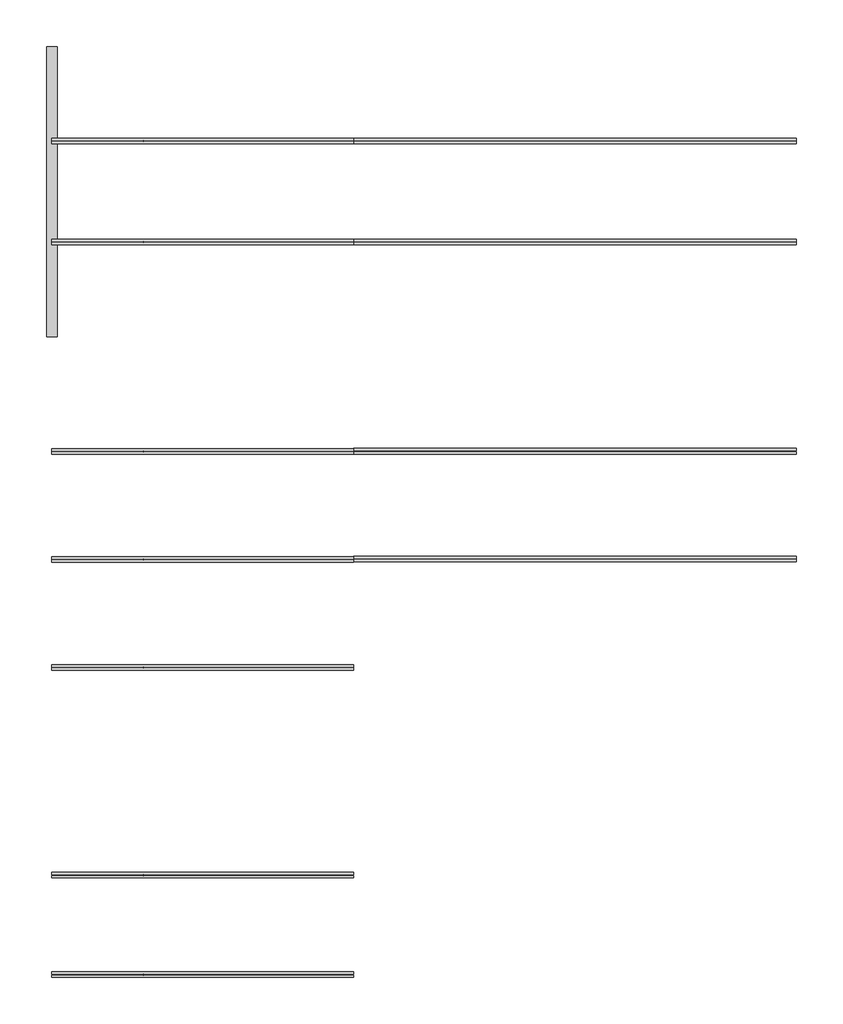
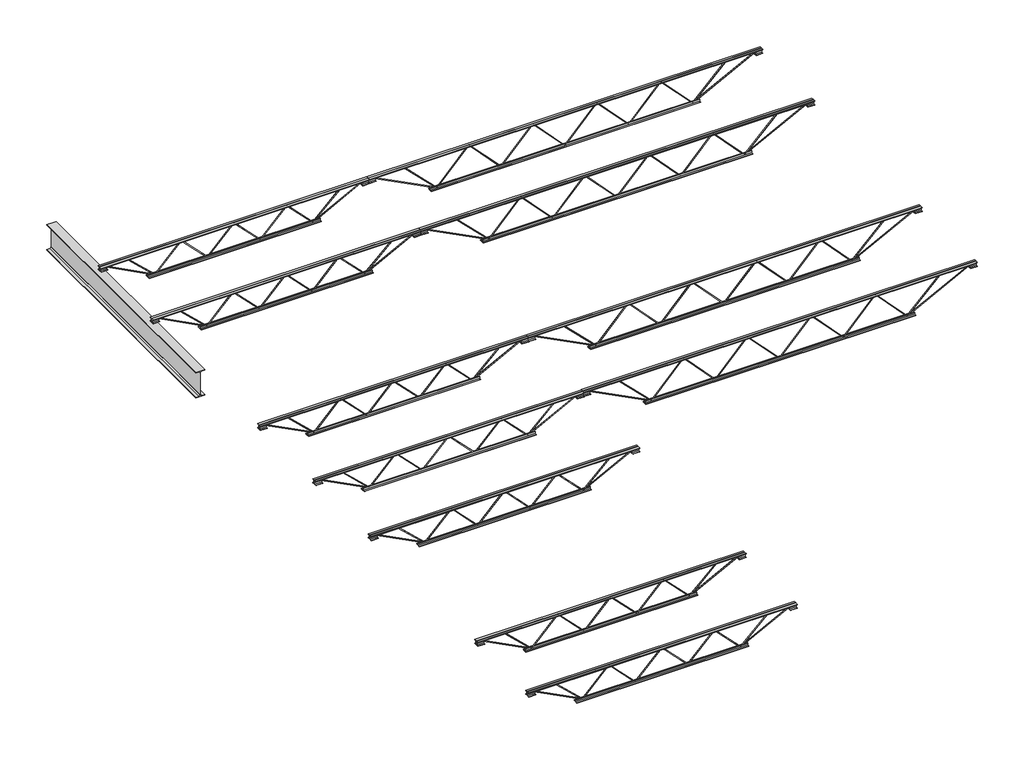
# One storey: 12 beams.
"""IFC4 building model written with IfcOpenShell, lengths in millimetres."""

import ifcopenshell
import ifcopenshell.guid

model = None  # the IFC model being written
_history = None  # IfcOwnerHistory: only IFC2X3 demands one
_inside = {}  # id of a spatial element -> (the spatial element, [elements in it])
_under = {}  # id of a project, library or spatial element -> (it, [spatial elements below it])
_declared = {}  # id of a project -> (the project, [libraries it declares])
_typed = {}  # id of a type object -> (the type object, [elements of that type])
_made_of = {}  # id of a material, layer set ... -> (it, [elements and type objects made of it])


def new_model(schema):
    """Start an empty IFC model of exactly this schema.

    Asked for "IFC4X3", IfcOpenShell would pick the latest addendum, in which some entities
    have other attributes; the version numbers below select the first issue.
    IFC2X3 requires an IfcOwnerHistory on every rooted entity: one is made here for all.
    """
    global model, _history
    if schema == "IFC4X3":
        model = ifcopenshell.file(schema_version=(4, 3, 0, 0))
    else:
        model = ifcopenshell.file(schema=schema)
    _inside.clear()
    _under.clear()
    _declared.clear()
    _typed.clear()
    _made_of.clear()
    _history = None
    if model.schema == "IFC2X3":
        org = make("IfcOrganization", Name="unknown")
        user = make(
            "IfcPersonAndOrganization",
            ThePerson=make("IfcPerson", FamilyName="unknown"),
            TheOrganization=org,
        )
        app = make(
            "IfcApplication",
            ApplicationDeveloper=org,
            Version="unknown",
            ApplicationFullName="unknown",
            ApplicationIdentifier="unknown",
        )
        _history = make(
            "IfcOwnerHistory",
            OwningUser=user,
            OwningApplication=app,
            ChangeAction="ADDED",
            CreationDate=0,
        )
    return model


def make(cls, **values):
    """One entity of the class cls with the attributes given. An attribute that is None is left unset."""
    return model.create_entity(
        cls, **{name: value for name, value in values.items() if value is not None}
    )


def rooted(cls, **values):
    """An entity with a GlobalId (a new one), such as an element, a storey or a relation."""
    return make(cls, GlobalId=ifcopenshell.guid.new(), OwnerHistory=_history, **values)


def si_unit(unit_type, name, prefix=None):
    """IfcSIUnit, for example si_unit("LENGTHUNIT", "METRE", prefix="MILLI")."""
    return make("IfcSIUnit", UnitType=unit_type, Prefix=prefix, Name=name)


def assignment(units):
    """IfcUnitAssignment: the units of a project."""
    return None if units is None else make("IfcUnitAssignment", Units=units)


def point(xyz):
    """IfcCartesianPoint."""
    return None if xyz is None else make("IfcCartesianPoint", Coordinates=xyz)


def direction(xyz):
    """IfcDirection."""
    return None if xyz is None else make("IfcDirection", DirectionRatios=xyz)


def frame(location, z_axis=None, x_axis=None):
    """IfcAxis2Placement3D, a coordinate frame: its origin and axes. An axis left out is left unset."""
    return make(
        "IfcAxis2Placement3D",
        Location=point(location),
        Axis=direction(z_axis),
        RefDirection=direction(x_axis),
    )


def frame_2d(location, x_axis=None):
    """IfcAxis2Placement2D, a coordinate frame in the plane: its origin and x axis."""
    return make(
        "IfcAxis2Placement2D", Location=point(location), RefDirection=direction(x_axis)
    )


def origin():
    """The frame at (0, 0, 0) with its axes left unset."""
    return frame((0.0, 0.0, 0.0))


def place(relative_to, where):
    """IfcLocalPlacement: puts the frame where relative to a parent placement (None: the world)."""
    return make(
        "IfcLocalPlacement", PlacementRelTo=relative_to, RelativePlacement=where
    )


def context(
    kind, dimensions, precision=None, world=None, true_north=None, identifier=None
):
    """IfcGeometricRepresentationContext, for example the 3D "Model" context."""
    return make(
        "IfcGeometricRepresentationContext",
        ContextIdentifier=identifier,
        ContextType=kind,
        CoordinateSpaceDimension=dimensions,
        Precision=precision,
        WorldCoordinateSystem=world,
        TrueNorth=true_north,
    )


def project(units=None, contexts=None):
    """IfcProject with its units and contexts."""
    return rooted(
        "IfcProject",
        Name="project",
        RepresentationContexts=contexts,
        UnitsInContext=assignment(units),
    )


def spatial(cls, under=None, at=None, **own):
    """A site, building, storey or space (cls), placed at a placement, below another one or the project."""
    s = rooted(cls, ObjectPlacement=at, **own)
    if under is not None:
        _under.setdefault(under.id(), (under, []))[1].append(s)
    return s


def polyline(points):
    """IfcPolyline through the points."""
    return make("IfcPolyline", Points=[point(p) for p in points])


def circle_curve(where, radius):
    """IfcCircle in the frame where."""
    return make("IfcCircle", Position=where, Radius=radius)


def trimmed(basis, trim1, trim2, sense, master):
    """IfcTrimmedCurve: the piece of a basis curve between two trims."""
    return make(
        "IfcTrimmedCurve",
        BasisCurve=basis,
        Trim1=trim1,
        Trim2=trim2,
        SenseAgreement=sense,
        MasterRepresentation=master,
    )


def segment(curve, same_sense, transition):
    """IfcCompositeCurveSegment."""
    return make(
        "IfcCompositeCurveSegment",
        Transition=transition,
        SameSense=same_sense,
        ParentCurve=curve,
    )


def composite_curve(segments, self_intersect=None):
    """IfcCompositeCurve: segments joined end to end."""
    return make("IfcCompositeCurve", Segments=segments, SelfIntersect=self_intersect)


def outline(outer, holes=None, kind="AREA"):
    """IfcArbitraryClosedProfileDef: a profile drawn as a closed curve; with holes, ...WithVoids."""
    if holes is None:
        return make("IfcArbitraryClosedProfileDef", ProfileType=kind, OuterCurve=outer)
    return make(
        "IfcArbitraryProfileDefWithVoids",
        ProfileType=kind,
        OuterCurve=outer,
        InnerCurves=holes,
    )


def extrude(swept, where, along, depth):
    """IfcExtrudedAreaSolid: the profile swept, set in the frame where, extruded along a direction by depth."""
    return make(
        "IfcExtrudedAreaSolid",
        SweptArea=swept,
        Position=where,
        ExtrudedDirection=direction(along),
        Depth=depth,
    )


def shape(context_of_items, identifier, shape_type, items):
    """IfcShapeRepresentation: the items that make up one representation, for example the "Body"."""
    return make(
        "IfcShapeRepresentation",
        ContextOfItems=context_of_items,
        RepresentationIdentifier=identifier,
        RepresentationType=shape_type,
        Items=items,
    )


def source(mapping_origin, context_of_items, identifier, shape_type, items):
    """IfcRepresentationMap: a shape defined once, which mapped items show again and again."""
    return make(
        "IfcRepresentationMap",
        MappingOrigin=mapping_origin,
        MappedRepresentation=shape(context_of_items, identifier, shape_type, items),
    )


def transform(
    local_origin,
    x_axis=None,
    y_axis=None,
    z_axis=None,
    scale=None,
    scale2=None,
    scale3=None,
    uniform=True,
):
    """IfcCartesianTransformationOperator3D, or its non-uniform kind. x_axis, y_axis, z_axis: its Axis1, 2, 3."""
    if uniform:
        return make(
            "IfcCartesianTransformationOperator3D",
            Axis1=direction(x_axis),
            Axis2=direction(y_axis),
            LocalOrigin=point(local_origin),
            Scale=scale,
            Axis3=direction(z_axis),
        )
    return make(
        "IfcCartesianTransformationOperator3DnonUniform",
        Axis1=direction(x_axis),
        Axis2=direction(y_axis),
        LocalOrigin=point(local_origin),
        Scale=scale,
        Axis3=direction(z_axis),
        Scale2=scale2,
        Scale3=scale3,
    )


def mapped(mapping_source, mapping_target):
    """IfcMappedItem: shows the shape of a source again, moved by a transform."""
    return make(
        "IfcMappedItem", MappingSource=mapping_source, MappingTarget=mapping_target
    )


def made_of(thing, what):
    """Note that an element or type object is made of a material, layer set ...; save() writes the relation."""
    if what is not None:
        _made_of.setdefault(what.id(), (what, []))[1].append(thing)
    return thing


def element(
    cls,
    number,
    at=None,
    inside=None,
    cuts=None,
    type_object=None,
    material=None,
    context=None,
    identifier="Body",
    shape_type=None,
    held_by="IfcProductDefinitionShape",
    body=None,
    shapes=None,
    **own,
):
    """One element of the class cls, such as IfcWall. Its Tag is "e" and its number.

    at: its placement. inside: the storey or other place that contains it. cuts: it is an
    opening in that element (IfcRelVoidsElement). A single representation is given by context,
    identifier, shape_type and body (its items); several are given by shapes. held_by: the class
    of the entity that holds the representations. save() writes the other relations.
    """
    e = rooted(cls, Tag="e%d" % number, ObjectPlacement=at, **own)
    if body is not None:
        shapes = [shape(context, identifier, shape_type, body)]
    if shapes is not None:
        e.Representation = make(held_by, Representations=shapes)
    if inside is not None:
        _inside.setdefault(inside.id(), (inside, []))[1].append(e)
    if cuts is not None:
        rooted(
            "IfcRelVoidsElement", RelatingBuildingElement=cuts, RelatedOpeningElement=e
        )
    if type_object is not None:
        _typed.setdefault(type_object.id(), (type_object, []))[1].append(e)
    return made_of(e, material)


def aggregate(whole, parts):
    """IfcRelAggregates: a whole, such as a stair, and the parts it consists of."""
    return rooted("IfcRelAggregates", RelatingObject=whole, RelatedObjects=parts)


def save(model, path):
    """Write the relations noted so far, then the file.

    IfcRelAggregates (storeys below a building ...), IfcRelContainedInSpatialStructure (elements
    in a storey), IfcRelDefinesByType, IfcRelAssociatesMaterial and IfcRelDeclares: one each for
    every whole, place, type object, material and project.
    """
    for whole, parts in _under.values():
        aggregate(whole, parts)
    for where, things in _inside.values():
        rooted(
            "IfcRelContainedInSpatialStructure",
            RelatedElements=things,
            RelatingStructure=where,
        )
    for kind, things in _typed.values():
        rooted("IfcRelDefinesByType", RelatedObjects=things, RelatingType=kind)
    for what, things in _made_of.values():
        rooted("IfcRelAssociatesMaterial", RelatedObjects=things, RelatingMaterial=what)
    for by, libraries in _declared.values():
        rooted("IfcRelDeclares", RelatingContext=by, RelatedDefinitions=libraries)
    model.write(path)


def k_series_bar_joist_rod_web_16k2_991e5e47(model_context):
    return source(origin(), model_context, "Body", "SweptSolid", [
        extrude(outline(polyline([(-192.0875, -389.4666667), (-201.6125, -389.4666667), (-201.6125, -384.2808605), (192.0875, -1.1641939), (192.0875, 1.1641939), (-201.6125, 384.2808605), (-201.6125, 389.4666667), (-192.0875, 389.4666667), (-192.0875, 388.3024728), (201.6125, 5.1858061), (201.6125, -5.1858061), (-192.0875, -388.3024728), (-192.0875, -389.4666667)])), frame((0.0, -4.7625, 0.0), z_axis=(0.0, 1.0, 0.0), x_axis=(0.0, 0.0, 1.0)), (0.0, 0.0, 1.0), 9.525),
        extrude(outline(polyline([(-192.0875, 389.4666667), (-201.6125, 389.4666667), (-201.6125, 394.6524728), (192.0875, 777.7691395), (192.0875, 780.0975272), (-201.6125, 1163.2141939), (-201.6125, 1168.4), (-192.0875, 1168.4), (-192.0875, 1167.2358061), (201.6125, 784.1191395), (201.6125, 773.7475272), (-192.0875, 390.6308605), (-192.0875, 389.4666667)])), frame((0.0, -4.7625, 0.0), z_axis=(0.0, 1.0, 0.0), x_axis=(0.0, 0.0, 1.0)), (0.0, 0.0, 1.0), 9.525),
        extrude(outline(polyline([(-192.0875, -1168.4), (-201.6125, -1168.4), (-201.6125, -1163.2141939), (192.0875, -780.0975272), (192.0875, -777.7691395), (-201.6125, -394.6524728), (-201.6125, -389.4666667), (-192.0875, -389.4666667), (-192.0875, -390.6308605), (201.6125, -773.7475272), (201.6125, -784.1191395), (-192.0875, -1167.2358061), (-192.0875, -1168.4)])), frame((0.0, -4.7625, 0.0), z_axis=(0.0, 1.0, 0.0), x_axis=(0.0, 0.0, 1.0)), (0.0, 0.0, 1.0), 9.525),
        extrude(outline(polyline([(4.7625, 203.2), (36.5125, 203.2), (36.5125, 196.85), (11.1125, 196.85), (11.1125, 171.45), (4.7625, 171.45), (4.7625, 203.2)])), frame((-1981.2, 0.0, 0.0), z_axis=(1.0, 0.0, 0.0), x_axis=(0.0, 1.0, 0.0)), (0.0, 0.0, 1.0), 3962.4),
        extrude(outline(polyline([(-4.7625, 203.2), (-4.7625, 171.45), (-11.1125, 171.45), (-11.1125, 196.85), (-36.5125, 196.85), (-36.5125, 203.2), (-4.7625, 203.2)])), frame((-1981.2, 0.0, 0.0), z_axis=(1.0, 0.0, 0.0), x_axis=(0.0, 1.0, 0.0)), (0.0, 0.0, 1.0), 3962.4),
        extrude(outline(polyline([(-4.7625, 139.7), (-36.5125, 139.7), (-36.5125, 146.05), (-11.1125, 146.05), (-11.1125, 171.45), (-4.7625, 171.45), (-4.7625, 139.7)])), frame((-1981.2, 0.0, 0.0), z_axis=(1.0, 0.0, 0.0), x_axis=(0.0, 1.0, 0.0)), (0.0, 0.0, 1.0), 101.6),
        extrude(outline(polyline([(36.5125, 139.7), (4.7625, 139.7), (4.7625, 171.45), (11.1125, 171.45), (11.1125, 146.05), (36.5125, 146.05), (36.5125, 139.7)])), frame((-1981.2, 0.0, 0.0), z_axis=(1.0, 0.0, 0.0), x_axis=(0.0, 1.0, 0.0)), (0.0, 0.0, 1.0), 101.6),
        extrude(outline(polyline([(4.7625, 139.7), (4.7625, 171.45), (11.1125, 171.45), (11.1125, 146.05), (36.5125, 146.05), (36.5125, 139.7), (4.7625, 139.7)])), frame((1879.6, 0.0, 0.0), z_axis=(1.0, 0.0, 0.0), x_axis=(0.0, 1.0, 0.0)), (0.0, 0.0, 1.0), 101.6),
        extrude(outline(polyline([(-4.7625, 139.7), (-36.5125, 139.7), (-36.5125, 146.05), (-11.1125, 146.05), (-11.1125, 171.45), (-4.7625, 171.45), (-4.7625, 139.7)])), frame((1879.6, 0.0, 0.0), z_axis=(1.0, 0.0, 0.0), x_axis=(0.0, 1.0, 0.0)), (0.0, 0.0, 1.0), 101.6),
        extrude(outline(polyline([(4.7625, -203.2), (4.7625, -171.45), (11.1125, -171.45), (11.1125, -196.85), (36.5125, -196.85), (36.5125, -203.2), (4.7625, -203.2)])), frame((-1270.0, 0.0, 0.0), z_axis=(1.0, 0.0, 0.0), x_axis=(0.0, 1.0, 0.0)), (0.0, 0.0, 1.0), 2540.0),
        extrude(outline(polyline([(-4.7625, -203.2), (-36.5125, -203.2), (-36.5125, -196.85), (-11.1125, -196.85), (-11.1125, -171.45), (-4.7625, -171.45), (-4.7625, -203.2)])), frame((-1270.0, 0.0, 0.0), z_axis=(1.0, 0.0, 0.0), x_axis=(0.0, 1.0, 0.0)), (0.0, 0.0, 1.0), 2540.0),
        extrude(outline(polyline([(0.0, -9.525), (0.0, 0.0), (800.9059433, 0.0), (800.9059433, -9.525), (0.0, -9.525)])), frame((-1881.7900559, 4.7625, 167.2209266), z_axis=(0.4598542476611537, 0.0, 0.8879944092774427), x_axis=(0.8879944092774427, 0.0, -0.4598542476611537)), (0.0, 0.0, 1.0), 9.525),
        extrude(outline(polyline([(0.0, -9.525), (0.0, 0.0), (536.0309454, 0.0), (536.0309454, -9.525), (0.0, -9.525)])), frame((-1561.1389194, 4.7625, 167.9896867), z_axis=(0.6870871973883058, 0.0, 0.7265749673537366), x_axis=(0.7265749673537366, 0.0, -0.6870871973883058)), (0.0, 0.0, 1.0), 9.525),
        extrude(outline(polyline([(0.0, -9.525), (0.0, 0.0), (800.9059433, 0.0), (800.9059433, -9.525), (0.0, -9.525)])), frame((1881.7900559, -4.7625, 167.2209266), z_axis=(-0.4598542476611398, 0.0, 0.8879944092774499), x_axis=(-0.8879944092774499, 0.0, -0.4598542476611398)), (0.0, 0.0, 1.0), 9.525),
        extrude(outline(polyline([(0.0, -9.525), (0.0, 0.0), (536.0309454, 0.0), (536.0309454, -9.525), (0.0, -9.525)])), frame((1561.1389194, -4.7625, 167.9896867), z_axis=(-0.6870871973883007, 0.0, 0.7265749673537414), x_axis=(-0.7265749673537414, 0.0, -0.6870871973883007)), (0.0, 0.0, 1.0), 9.525),
    ])


def k_series_bar_joist_rod_web_20k4_3f3eeb71(model_context):
    return source(origin(), model_context, "Body", "SweptSolid", [
        extrude(outline(polyline([(-242.8875, 0.0), (-252.4125, 0.0), (-252.4125, 5.2334525), (242.8875, 471.1647025), (242.8875, 473.3977975), (-252.4125, 939.3290475), (-252.4125, 944.5625), (-242.8875, 944.5625), (-242.8875, 943.4459525), (252.4125, 477.5147025), (252.4125, 467.0477975), (-242.8875, 1.1165475), (-242.8875, 0.0)])), frame((0.0, -4.7625, 0.0), z_axis=(0.0, 1.0, 0.0), x_axis=(0.0, 0.0, 1.0)), (0.0, 0.0, 1.0), 9.525),
        extrude(outline(polyline([(-242.8875, -944.5625), (-252.4125, -944.5625), (-252.4125, -939.3290475), (242.8875, -473.3977975), (242.8875, -471.1647025), (-252.4125, -5.2334525), (-252.4125, 0.0), (-242.8875, 0.0), (-242.8875, -1.1165475), (252.4125, -467.0477975), (252.4125, -477.5147025), (-242.8875, -943.4459525), (-242.8875, -944.5625)])), frame((0.0, -4.7625, 0.0), z_axis=(0.0, 1.0, 0.0), x_axis=(0.0, 0.0, 1.0)), (0.0, 0.0, 1.0), 9.525),
        extrude(outline(polyline([(-242.8875, 944.5625), (-252.4125, 944.5625), (-252.4125, 949.7959525), (242.8875, 1415.7272025), (242.8875, 1417.9602975), (-252.4125, 1883.8915475), (-252.4125, 1889.125), (-242.8875, 1889.125), (-242.8875, 1888.0084525), (252.4125, 1422.0772025), (252.4125, 1411.6102975), (-242.8875, 945.6790475), (-242.8875, 944.5625)])), frame((0.0, -4.7625, 0.0), z_axis=(0.0, 1.0, 0.0), x_axis=(0.0, 0.0, 1.0)), (0.0, 0.0, 1.0), 9.525),
        extrude(outline(polyline([(-242.8875, -1889.125), (-252.4125, -1889.125), (-252.4125, -1883.8915475), (242.8875, -1417.9602975), (242.8875, -1415.7272025), (-252.4125, -949.7959525), (-252.4125, -944.5625), (-242.8875, -944.5625), (-242.8875, -945.6790475), (252.4125, -1411.6102975), (252.4125, -1422.0772025), (-242.8875, -1888.0084525), (-242.8875, -1889.125)])), frame((0.0, -4.7625, 0.0), z_axis=(0.0, 1.0, 0.0), x_axis=(0.0, 0.0, 1.0)), (0.0, 0.0, 1.0), 9.525),
        extrude(outline(polyline([(4.7625, 254.0), (36.5125, 254.0), (36.5125, 247.65), (11.1125, 247.65), (11.1125, 222.25), (4.7625, 222.25), (4.7625, 254.0)])), frame((-2905.125, 0.0, 0.0), z_axis=(1.0, 0.0, 0.0), x_axis=(0.0, 1.0, 0.0)), (0.0, 0.0, 1.0), 5810.25),
        extrude(outline(polyline([(-4.7625, 254.0), (-4.7625, 222.25), (-11.1125, 222.25), (-11.1125, 247.65), (-36.5125, 247.65), (-36.5125, 254.0), (-4.7625, 254.0)])), frame((-2905.125, 0.0, 0.0), z_axis=(1.0, 0.0, 0.0), x_axis=(0.0, 1.0, 0.0)), (0.0, 0.0, 1.0), 5810.25),
        extrude(outline(polyline([(-4.7625, 190.5), (-36.5125, 190.5), (-36.5125, 196.85), (-11.1125, 196.85), (-11.1125, 222.25), (-4.7625, 222.25), (-4.7625, 190.5)])), frame((-2905.125, 0.0, 0.0), z_axis=(1.0, 0.0, 0.0), x_axis=(0.0, 1.0, 0.0)), (0.0, 0.0, 1.0), 101.6),
        extrude(outline(polyline([(36.5125, 190.5), (4.7625, 190.5), (4.7625, 222.25), (11.1125, 222.25), (11.1125, 196.85), (36.5125, 196.85), (36.5125, 190.5)])), frame((-2905.125, 0.0, 0.0), z_axis=(1.0, 0.0, 0.0), x_axis=(0.0, 1.0, 0.0)), (0.0, 0.0, 1.0), 101.6),
        extrude(outline(polyline([(4.7625, 190.5), (4.7625, 222.25), (11.1125, 222.25), (11.1125, 196.85), (36.5125, 196.85), (36.5125, 190.5), (4.7625, 190.5)])), frame((2803.525, 0.0, 0.0), z_axis=(1.0, 0.0, 0.0), x_axis=(0.0, 1.0, 0.0)), (0.0, 0.0, 1.0), 101.6),
        extrude(outline(polyline([(-4.7625, 190.5), (-36.5125, 190.5), (-36.5125, 196.85), (-11.1125, 196.85), (-11.1125, 222.25), (-4.7625, 222.25), (-4.7625, 190.5)])), frame((2803.525, 0.0, 0.0), z_axis=(1.0, 0.0, 0.0), x_axis=(0.0, 1.0, 0.0)), (0.0, 0.0, 1.0), 101.6),
        extrude(outline(polyline([(4.7625, -254.0), (4.7625, -222.25), (11.1125, -222.25), (11.1125, -247.65), (36.5125, -247.65), (36.5125, -254.0), (4.7625, -254.0)])), frame((-1990.725, 0.0, 0.0), z_axis=(1.0, 0.0, 0.0), x_axis=(0.0, 1.0, 0.0)), (0.0, 0.0, 1.0), 3981.45),
        extrude(outline(polyline([(-4.7625, -254.0), (-36.5125, -254.0), (-36.5125, -247.65), (-11.1125, -247.65), (-11.1125, -222.25), (-4.7625, -222.25), (-4.7625, -254.0)])), frame((-1990.725, 0.0, 0.0), z_axis=(1.0, 0.0, 0.0), x_axis=(0.0, 1.0, 0.0)), (0.0, 0.0, 1.0), 3981.45),
        extrude(outline(polyline([(0.0, -9.525), (0.0, 0.0), (1028.0726482, 0.0), (1028.0726482, -9.525), (0.0, -9.525)])), frame((-2805.7017905, 4.7625, 218.0140834), z_axis=(0.45706886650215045, 0.0, 0.8894313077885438), x_axis=(0.8894313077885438, 0.0, -0.45706886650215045)), (0.0, 0.0, 1.0), 9.525),
        extrude(outline(polyline([(0.0, -9.525), (0.0, 0.0), (666.2248788, 0.0), (666.2248788, -9.525), (0.0, -9.525)])), frame((-2364.7653241, 4.7625, 218.8739035), z_axis=(0.7053174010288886, 0.0, 0.708891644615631), x_axis=(0.708891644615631, 0.0, -0.7053174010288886)), (0.0, 0.0, 1.0), 9.525),
        extrude(outline(polyline([(0.0, -9.525), (0.0, 0.0), (1028.0726482, 0.0), (1028.0726482, -9.525), (0.0, -9.525)])), frame((2805.7017905, -4.7625, 218.0140834), z_axis=(-0.45706886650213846, 0.0, 0.8894313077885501), x_axis=(-0.8894313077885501, 0.0, -0.45706886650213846)), (0.0, 0.0, 1.0), 9.525),
        extrude(outline(polyline([(0.0, -9.525), (0.0, 0.0), (666.2248788, 0.0), (666.2248788, -9.525), (0.0, -9.525)])), frame((2364.7653241, -4.7625, 218.8739035), z_axis=(-0.7053174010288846, 0.0, 0.7088916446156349), x_axis=(-0.7088916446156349, 0.0, -0.7053174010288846)), (0.0, 0.0, 1.0), 9.525),
    ])


def w_wide_flange_w16x26_0c83cf25(model_context):
    return source(origin(), model_context, "Body", "SweptSolid", [
        extrude(outline(composite_curve([segment(polyline([(69.85, -190.5496094), (69.85, -199.2808594), (-69.85, -199.2808594), (-69.85, -190.5496094), (-21.43125, -190.5496094)]), True, "CONTINUOUS"), segment(trimmed(circle_curve(frame_2d((-21.43125, -172.2933594)), 18.25625), [point((-21.43125, -190.5496094))], [point((-3.175, -172.2933594))], True, "CARTESIAN"), True, "CONTINUOUS"), segment(polyline([(-3.175, -172.2933594), (-3.175, 172.2933594)]), True, "CONTINUOUS"), segment(trimmed(circle_curve(frame_2d((-21.43125, 172.2933594)), 18.25625), [point((-3.175, 172.2933594))], [point((-21.43125, 190.5496094))], True, "CARTESIAN"), True, "CONTINUOUS"), segment(polyline([(-21.43125, 190.5496094), (-69.85, 190.5496094), (-69.85, 199.2808594), (69.85, 199.2808594), (69.85, 190.5496094), (21.43125, 190.5496094)]), True, "CONTINUOUS"), segment(trimmed(circle_curve(frame_2d((21.43125, 172.2933594)), 18.25625), [point((21.43125, 190.5496094))], [point((3.175, 172.2933594))], True, "CARTESIAN"), True, "CONTINUOUS"), segment(polyline([(3.175, 172.2933594), (3.175, -172.2933594)]), True, "CONTINUOUS"), segment(trimmed(circle_curve(frame_2d((21.43125, -172.2933594)), 18.25625), [point((3.175, -172.2933594))], [point((21.43125, -190.5496094))], True, "CARTESIAN"), True, "CONTINUOUS"), segment(polyline([(21.43125, -190.5496094), (69.85, -190.5496094)]), True, "CONTINUOUS")], self_intersect=False)), frame((-1908.0757812, 0.0, 0.0), z_axis=(1.0, 0.0, 0.0), x_axis=(0.0, 1.0, 0.0)), (0.0, 0.0, 1.0), 3810.0),
    ])


model = new_model("IFC4")

# Units and contexts
model_context = context("Model", 3, world=origin())
ifc_project = project(units=[si_unit("LENGTHUNIT", "METRE", prefix="MILLI")], contexts=[model_context])

# Site, building, storey
site = spatial("IfcSite", under=ifc_project)
building = spatial("IfcBuilding", under=site)
storey = spatial("IfcBuildingStorey", under=building, Name="L3 - BOD", Elevation=52735.0)

# Beams
placement = place(None, origin())
k_series_bar_joist_rod_web_16k2_shape = k_series_bar_joist_rod_web_16k2_991e5e47(model_context)
element("IfcBeam", 1, ObjectType="K-Series Bar Joist-Rod Web : 16K2", at=placement, inside=storey, context=model_context, shape_type="MappedRepresentation", body=[
    mapped(k_series_bar_joist_rod_web_16k2_shape, transform((-11978.2313072, -159.5489603, 52531.8), x_axis=(1.0, 0.0, 0.0), y_axis=(0.0, 1.0, 0.0), z_axis=(0.0, 0.0, 1.0))),
])
element("IfcBeam", 2, ObjectType="K-Series Bar Joist-Rod Web : 16K2", at=placement, inside=storey, context=model_context, shape_type="MappedRepresentation", body=[
    mapped(k_series_bar_joist_rod_web_16k2_shape, transform((-11978.2313072, -1465.0619233, 52531.8), x_axis=(1.0, 0.0, 0.0), y_axis=(0.0, 1.0, 0.0), z_axis=(0.0, 0.0, 1.0))),
])
element("IfcBeam", 3, ObjectType="K-Series Bar Joist-Rod Web : 16K2", at=placement, inside=storey, context=model_context, shape_type="MappedRepresentation", body=[
    mapped(k_series_bar_joist_rod_web_16k2_shape, transform((-11978.2313072, 5399.934836, 52531.8), x_axis=(1.0, 0.0, 0.0), y_axis=(0.0, 1.0, 0.0), z_axis=(0.0, 0.0, 1.0))),
])
element("IfcBeam", 4, ObjectType="K-Series Bar Joist-Rod Web : 16K2", at=placement, inside=storey, context=model_context, shape_type="MappedRepresentation", body=[
    mapped(k_series_bar_joist_rod_web_16k2_shape, transform((-11978.2313072, 3981.9445582, 52531.8), x_axis=(1.0, 0.0, 0.0), y_axis=(0.0, 1.0, 0.0), z_axis=(0.0, 0.0, 1.0))),
])
element("IfcBeam", 5, ObjectType="K-Series Bar Joist-Rod Web : 16K2", at=placement, inside=storey, context=model_context, shape_type="MappedRepresentation", body=[
    mapped(k_series_bar_joist_rod_web_16k2_shape, transform((-11978.2313072, 2563.9542804, 52531.8), x_axis=(1.0, 0.0, 0.0), y_axis=(0.0, 1.0, 0.0), z_axis=(0.0, 0.0, 1.0))),
])
element("IfcBeam", 6, ObjectType="K-Series Bar Joist-Rod Web : 16K2", at=placement, inside=storey, context=model_context, shape_type="MappedRepresentation", body=[
    mapped(k_series_bar_joist_rod_web_16k2_shape, transform((-11978.2313072, 9474.3417804, 52531.8), x_axis=(1.0, 0.0, 0.0), y_axis=(0.0, 1.0, 0.0), z_axis=(0.0, 0.0, 1.0))),
])
element("IfcBeam", 7, ObjectType="K-Series Bar Joist-Rod Web : 16K2", at=placement, inside=storey, context=model_context, shape_type="MappedRepresentation", body=[
    mapped(k_series_bar_joist_rod_web_16k2_shape, transform((-11978.2313072, 8146.1334471, 52531.8), x_axis=(1.0, 0.0, 0.0), y_axis=(0.0, 1.0, 0.0), z_axis=(0.0, 0.0, 1.0))),
])
k_series_bar_joist_rod_web_20k4_shape = k_series_bar_joist_rod_web_20k4_3f3eeb71(model_context)
element("IfcBeam", 8, ObjectType="K-Series Bar Joist-Rod Web : 20K4", at=placement, inside=storey, context=model_context, shape_type="MappedRepresentation", body=[
    mapped(k_series_bar_joist_rod_web_20k4_shape, transform((-7091.6417239, 9474.3417804, 52481.0), x_axis=(1.0, 0.0, 0.0), y_axis=(0.0, 1.0, 0.0), z_axis=(0.0, 0.0, 1.0))),
])
element("IfcBeam", 9, ObjectType="K-Series Bar Joist-Rod Web : 20K4", at=placement, inside=storey, context=model_context, shape_type="MappedRepresentation", body=[
    mapped(k_series_bar_joist_rod_web_20k4_shape, transform((-7091.6417239, 8146.1334471, 52481.0), x_axis=(1.0, 0.0, 0.0), y_axis=(0.0, 1.0, 0.0), z_axis=(0.0, 0.0, 1.0))),
])
element("IfcBeam", 10, ObjectType="K-Series Bar Joist-Rod Web : 20K4", at=placement, inside=storey, context=model_context, shape_type="MappedRepresentation", body=[
    mapped(k_series_bar_joist_rod_web_20k4_shape, transform((-7091.6417239, 5402.4498197, 52481.0), x_axis=(1.0, 0.0, 0.0), y_axis=(0.0, 1.0, 0.0), z_axis=(0.0, 0.0, 1.0))),
])
element("IfcBeam", 11, ObjectType="K-Series Bar Joist-Rod Web : 20K4", at=placement, inside=storey, context=model_context, shape_type="MappedRepresentation", body=[
    mapped(k_series_bar_joist_rod_web_20k4_shape, transform((-7091.6417239, 3986.9745257, 52481.0), x_axis=(1.0, 0.0, 0.0), y_axis=(0.0, 1.0, 0.0), z_axis=(0.0, 0.0, 1.0))),
])
w_wide_flange_w16x26_shape = w_wide_flange_w16x26_0c83cf25(model_context)
element("IfcBeam", 12, ObjectType="W-Wide Flange : W16X26", at=placement, inside=storey, context=model_context, shape_type="MappedRepresentation", body=[
    mapped(w_wide_flange_w16x26_shape, transform((-13959.4313072, 8810.2376138, 52472.2191406), x_axis=(0.0, 1.0, 0.0), y_axis=(-1.0, 0.0, 0.0), z_axis=(0.0, 0.0, 1.0))),
])

save(model, "model.ifc")
